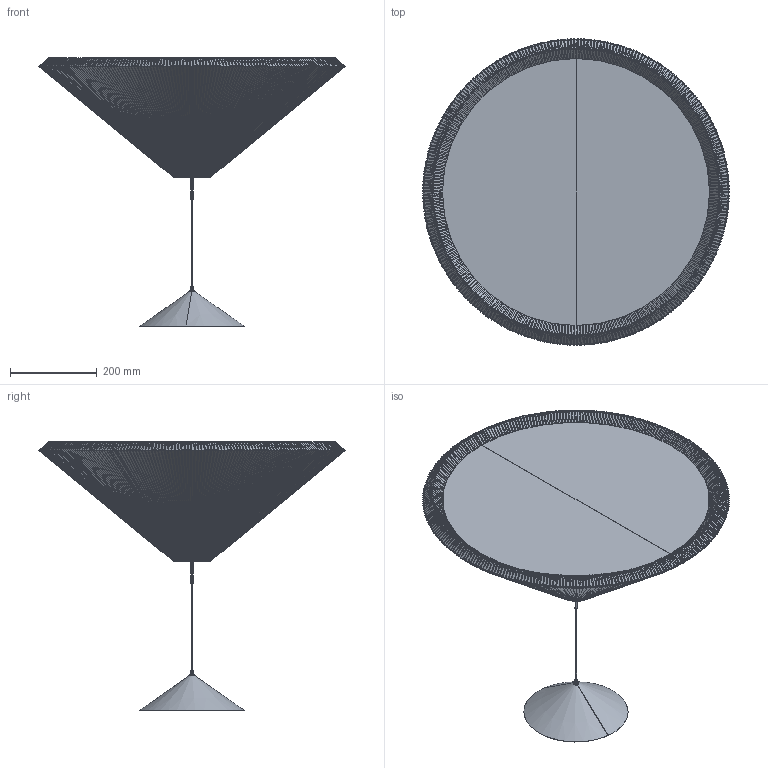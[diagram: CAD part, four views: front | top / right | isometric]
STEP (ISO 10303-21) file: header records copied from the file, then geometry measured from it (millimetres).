
FILE_DESCRIPTION(/* description */ (''),/* implementation_level */ '2;1');
FILE_NAME(/* name */ 'C:\Users\FrancoSartori\Documents\FARO\01_En Proceso\00_SAIGON-IN\03_Publicación\20122.stp',/* time_stamp */ '2021-03-24T16:53:29+01:00',/* author */ ('FrancoSartori'),/* organization */ (''),/* preprocessor_version */ 'ST-DEVELOPER v18',/* originating_system */ 'AutoCAD Mechanical',/* authorisation */ '');
FILE_SCHEMA (('AUTOMOTIVE_DESIGN { 1 0 10303 214 3 1 1 }'));
Products named in the file (3): Product; SAIGONIN_CS - CS-587373-Export; SAIGONIN700 - LAMP-592363-Export
Assembly tree (2 placements, depth 2):
  Product
    SAIGONIN_CS - CS-587373-Export
    SAIGONIN700 - LAMP-592363-Export
Bounding box: 705.95 x 705.91 x 618.96 mm (x, y, z)
Volume: 1305054.7 mm3; surface area: 2934609.7 mm2
Topology: 870 solids, 876 shells, 5935 faces, 12227 edges, 8010 vertices
Faces by surface type: plane 4383, bspline 1436, cylinder 92, torus 18, cone 6
Entity records: 162928 total; most frequent: CARTESIAN_POINT 46135, ORIENTED_EDGE 24414, DIRECTION 19061, EDGE_CURVE 12227, LINE 9687, VECTOR 9687, VERTEX_POINT 8010, EDGE_LOOP 5947
